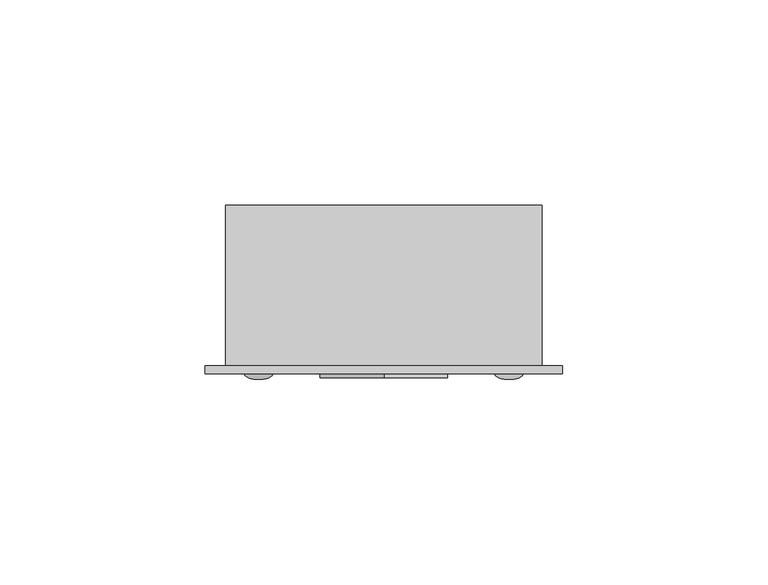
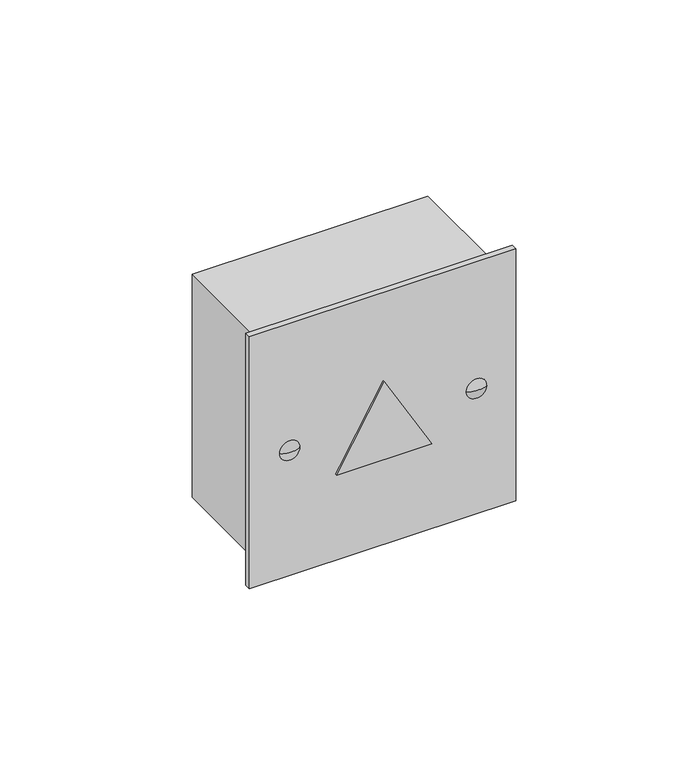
"""IFC4 building model written with IfcOpenShell, lengths in millimetres: proxy geometry, TSL_UK - TSLSZPC - Single Zone Assistance Alarm Kit : TSL.SZPC.CS - Satin - Light and Buzzer."""

from ifc_helpers import new_model, si_unit, point, frame, origin, place, context, project, spatial, polyline, circle_curve, ellipse_curve, trimmed, outline, extrude, source, transform, mapped, element, save
from ifc_brep_helpers import plane_surface, revolved_surface, advanced_brep


def communication_devices_bc887a28(model_context):
    return source(origin(), model_context, "Body", "SolidModel", [
        advanced_brep(
        [(43.5, -2.0, 43.5), (-43.5, -2.0, 43.5), (-43.5, -2.0, -43.5), (43.5, -2.0, -43.5), (4.0, -2.0, 0.0), (-4.0, -2.0, 0.0), (43.5, 0.0, 43.5), (43.5, 0.0, -43.5), (-43.5, 0.0, -43.5), (-43.5, 0.0, 43.5), (-1.5, 0.0, 0.0), (1.5, 0.0, 0.0), (-1.5, -1.139181, 0.0), (1.5, -1.139181, 0.0)],
        [
            (0, 1),
            (1, 2),
            (2, 3),
            (3, 0),
            (4, 5, circle_curve(frame((0.0, -2.0, 0.0), z_axis=(0.0, 1.0, 0.0), x_axis=(1.0, 0.0, 0.0)), 4.0)),
            (5, 4, circle_curve(frame((0.0, -2.0, 0.0), z_axis=(0.0, 1.0, 0.0), x_axis=(1.0, 0.0, 0.0)), 4.0)),
            (6, 7),
            (7, 8),
            (8, 9),
            (9, 6),
            (10, 11, circle_curve(frame((0.0, 0.0, 0.0), z_axis=(0.0, -1.0, 0.0), x_axis=(1.0, 0.0, 0.0)), 1.5)),
            (11, 10, circle_curve(frame((0.0, 0.0, 0.0), z_axis=(0.0, -1.0, 0.0), x_axis=(1.0, 0.0, 0.0)), 1.5)),
            (0, 6),
            (9, 1),
            (8, 2),
            (7, 3),
            (10, 12),
            (12, 13, circle_curve(frame((0.0, -1.139181, 0.0), z_axis=(0.0, -1.0, 0.0), x_axis=(1.0, 0.0, 0.0)), 1.5)),
            (13, 11),
            (13, 12, circle_curve(frame((0.0, -1.139181, 0.0), z_axis=(0.0, -1.0, 0.0), x_axis=(1.0, 0.0, 0.0)), 1.5)),
            (12, 5),
            (4, 13),
        ],
        [
            plane_surface(frame((-43.5, -2.0, 43.5), z_axis=(0.0, -1.0, 0.0), x_axis=(-1.0, 0.0, 0.0))),
            plane_surface(frame((-43.5, 0.0, 43.5), z_axis=(0.0, 1.0, 0.0), x_axis=(1.0, 0.0, 0.0))),
            plane_surface(frame((43.5, -2.0, 43.5), z_axis=(0.0, 0.0, 1.0), x_axis=(0.0, 1.0, 0.0))),
            plane_surface(frame((-43.5, -2.0, 43.5), z_axis=(-1.0, 0.0, 0.0), x_axis=(0.0, 1.0, 0.0))),
            plane_surface(frame((-43.5, -2.0, -43.5), z_axis=(0.0, 0.0, -1.0), x_axis=(0.0, 1.0, 0.0))),
            plane_surface(frame((43.5, -2.0, -43.5), z_axis=(1.0, 0.0, 0.0), x_axis=(0.0, 1.0, 0.0))),
            revolved_surface(polyline([(1.5, 0.0, 0.0), (1.5, -1.1391809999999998, 0.0)]), (0.0, 5.0, 0.0), (0.0, 1.0, 0.0)),
            revolved_surface(polyline([(1.5, -1.139181, 0.0), (4.0, -2.0, 0.0)]), (0.0, 5.0, 0.0), (0.0, 1.0, 0.0)),
        ],
        [
            (0, [[1, 2, 3, 4], [5, 6]]),
            (1, [[7, 8, 9, 10], [11, 12]]),
            (2, [[-1, 13, -10, 14]]),
            (3, [[-2, -14, -9, 15]]),
            (4, [[-3, -15, -8, 16]]),
            (5, [[-4, -16, -7, -13]]),
            (6, [[17, 18, 19, -11]]),
            (6, [[-17, -12, -19, 20]]),
            (7, [[-18, 21, -5, 22]]),
            (7, [[-20, -22, -6, -21]]),
        ],
    ),
        extrude(outline(polyline([(13.4249995, 0.0), (-13.4249995, -15.5), (-13.4249995, 15.5), (13.4249995, 0.0)])), frame((0.0, -3.0, 0.0), z_axis=(0.0, 1.0, 0.0), x_axis=(0.0, 0.0, 1.0)), (0.0, 0.0, 1.0), 1.0),
        advanced_brep(
        [(34.0, -2.0, 0.0), (27.0, -2.0, 0.0), (30.5, -2.0, 0.0), (30.5, -3.3586121, 0.0)],
        [
            (0, 1, circle_curve(frame((30.5, -2.0, 0.0), z_axis=(0.0, 1.0, 0.0), x_axis=(-1.0, 0.0, 0.0)), 3.5)),
            (1, 2),
            (2, 0),
            (1, 0, circle_curve(frame((30.5, -2.0, 0.0), z_axis=(0.0, 1.0, 0.0), x_axis=(-1.0, 0.0, 0.0)), 3.5)),
            (3, 1, ellipse_curve(frame((30.5, -2.0, 0.0), z_axis=(0.0, 0.0, -1.0), x_axis=(1.0, 0.0, 0.0)), 3.5, 1.3586121)),
            (0, 3, ellipse_curve(frame((30.5, -2.0, 0.0), z_axis=(0.0, 0.0, -1.0), x_axis=(-1.0, 0.0, 0.0)), 3.5, 1.3586121)),
        ],
        [
            plane_surface(frame((30.5, -2.0, 0.0), z_axis=(0.0, 1.0, 0.0), x_axis=(-1.0, 0.0, 0.0))),
            revolved_surface(trimmed(ellipse_curve(frame((30.5, -2.0, 0.0), z_axis=(0.0, 0.0, 1.0), x_axis=(1.0, 0.0, 0.0)), 3.5, 1.3586121), [point((27.0, -2.0, 0.0))], [point((30.5, -3.3586121, 0.0))], True, "CARTESIAN"), (30.5, 13.8518062, 0.0), (0.0, -1.0, 0.0)),
        ],
        [
            (0, [[1, 2, 3]]),
            (0, [[4, -3, -2]]),
            (1, [[5, -1, 6]]),
            (1, [[-6, -4, -5]]),
        ],
    ),
        advanced_brep(
        [(-30.5, -2.0, 0.0), (-27.0, -2.0, 0.0), (-34.0, -2.0, 0.0), (-30.5, -3.3586121, 0.0)],
        [
            (0, 1),
            (1, 2, circle_curve(frame((-30.5, -2.0, 0.0), z_axis=(0.0, 1.0, 0.0), x_axis=(1.0, 0.0, 0.0)), 3.5)),
            (2, 0),
            (2, 1, circle_curve(frame((-30.5, -2.0, 0.0), z_axis=(0.0, 1.0, 0.0), x_axis=(1.0, 0.0, 0.0)), 3.5)),
            (1, 3, ellipse_curve(frame((-30.5, -2.0, 0.0), z_axis=(0.0, 0.0, -1.0), x_axis=(-1.0, 0.0, 0.0)), 3.5, 1.3586121)),
            (3, 2, ellipse_curve(frame((-30.5, -2.0, 0.0), z_axis=(0.0, 0.0, -1.0), x_axis=(1.0, 0.0, 0.0)), 3.5, 1.3586121)),
        ],
        [
            plane_surface(frame((-30.5, -2.0, 0.0), z_axis=(0.0, 1.0, 0.0), x_axis=(1.0, 0.0, 0.0))),
            revolved_surface(trimmed(ellipse_curve(frame((-30.5, -2.0, 0.0), z_axis=(0.0, 0.0, 1.0), x_axis=(-1.0, 0.0, 0.0)), 3.5, 1.3586121), [point((-30.5, -3.3586121, 0.0))], [point((-27.0, -2.0, 0.0))], True, "CARTESIAN"), (-30.5, 13.8518062, 0.0), (0.0, 1.0, 0.0)),
        ],
        [
            (0, [[1, 2, 3]]),
            (0, [[-3, 4, -1]]),
            (1, [[-2, 5, 6]]),
            (1, [[-4, -6, -5]]),
        ],
    ),
        extrude(outline(polyline([(38.5, 0.0), (-38.5, 0.0), (-38.5, 39.0), (38.5, 39.0), (38.5, 0.0)])), frame((0.0, 0.0, -38.5), z_axis=(0.0, 0.0, 1.0), x_axis=(1.0, 0.0, 0.0)), (0.0, 0.0, 1.0), 77.0),
    ])


if __name__ == "__main__":
    model = new_model("IFC4")
    model_context = context("Model", 3, world=origin())
    ifc_project = project(units=[si_unit("LENGTHUNIT", "METRE", prefix="MILLI")], contexts=[model_context])
    site = spatial("IfcSite", under=ifc_project)
    building = spatial("IfcBuilding", under=site)
    placement = place(None, origin())
    communication_devices_shape = communication_devices_bc887a28(model_context)
    element("IfcBuildingElementProxy", 1, Name="TSL_UK - TSLSZPC - Single Zone Assistance Alarm Kit : TSL.SZPC.CS - Satin - Light and Buzzer", ObjectType="TSL_UK - TSLSZPC - Single Zone Assistance Alarm Kit : TSL.SZPC.CS - Satin - Light and Buzzer", at=placement, inside=building, context=model_context, shape_type="MappedRepresentation", body=[
        mapped(communication_devices_shape, transform((0.0, 0.0, 0.0), x_axis=(1.0, 0.0, 0.0), y_axis=(0.0, 1.0, 0.0), z_axis=(0.0, 0.0, 1.0))),
    ])
    save(model, "model.ifc")
